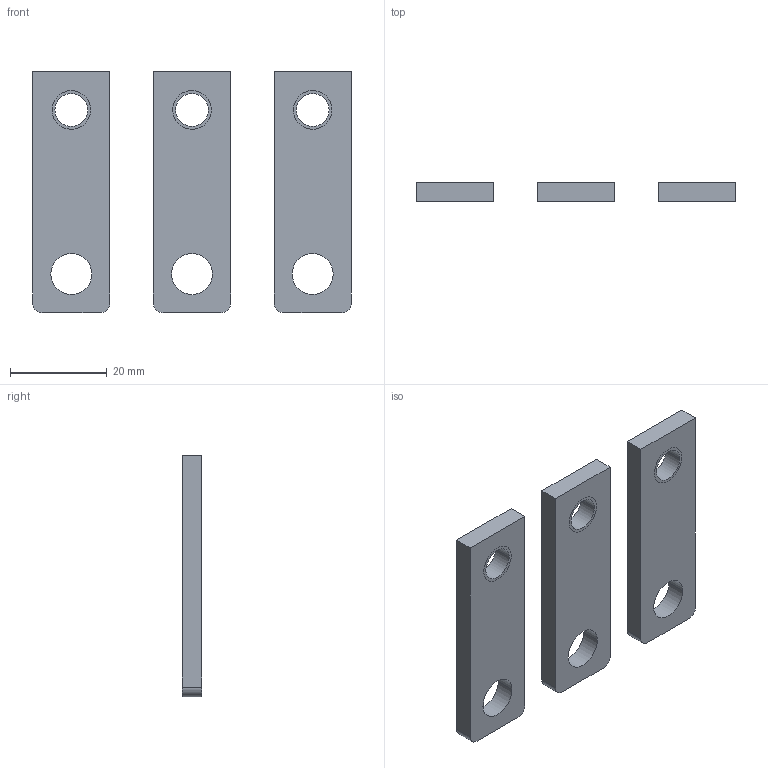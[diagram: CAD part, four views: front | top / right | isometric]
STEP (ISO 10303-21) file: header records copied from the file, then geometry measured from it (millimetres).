
FILE_DESCRIPTION (( 'STEP AP214' ), '1' );
FILE_NAME ('TGM1N-GP-63-125 3P.STEP', '2025-12-29T11:39:19', ( '' ), ( '' ), 'SwSTEP 2.0', 'SolidWorks 2024', '' );
FILE_SCHEMA (( 'AUTOMOTIVE_DESIGN' ));
Length unit declared in the file: millimetre
Products named in the file (6): TGM1N-GP-63-125 3P.stp; TGM1N-GP-63-125 3P2; TGM1N-GP-63-125 3P1; 8TZD_585_1209_1_2.stp; TGM1N-GP-63-125 3P; 8TZD_585_1209_2_2.stp
Assembly tree (7 placements, depth 4):
  TGM1N-GP-63-125 3P
    TGM1N-GP-63-125 3P.stp
      8TZD_585_1209_1_2.stp
      8TZD_585_1209_2_2.stp
    TGM1N-GP-63-125 3P1
      TGM1N-GP-63-125 3P.stp
        8TZD_585_1209_1_2.stp
        8TZD_585_1209_2_2.stp
    TGM1N-GP-63-125 3P2
      TGM1N-GP-63-125 3P.stp
        8TZD_585_1209_1_2.stp
        8TZD_585_1209_2_2.stp
Bounding box: 66 x 4 x 50 mm (x, y, z)
Volume: 8462.7 mm3; surface area: 6673.1 mm2
Topology: 3 solids, 6 shells, 42 faces, 108 edges, 72 vertices
Faces by surface type: cylinder 24, plane 18
Entity records: 677 total; most frequent: CARTESIAN_POINT 162, DIRECTION 98, ORIENTED_EDGE 68, AXIS2_PLACEMENT_3D 40, EDGE_CURVE 36, VERTEX_POINT 24, LINE 18, EDGE_LOOP 18
